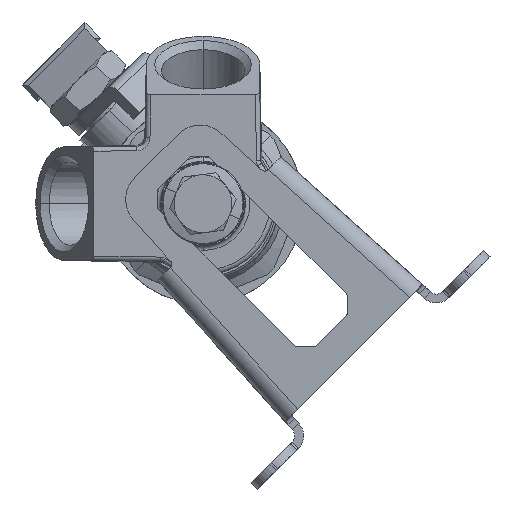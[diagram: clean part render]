
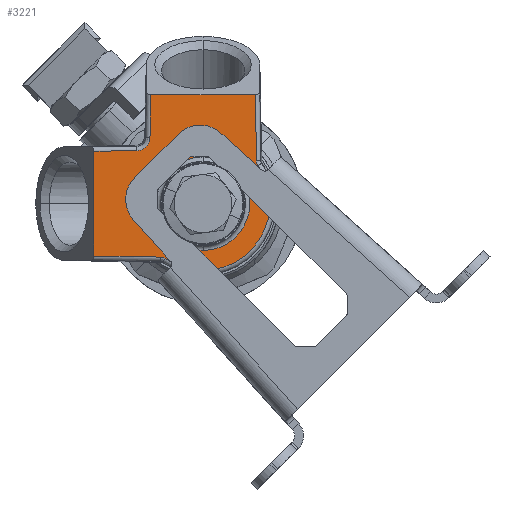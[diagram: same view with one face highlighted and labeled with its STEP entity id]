
A CAD part, left-side view. The second image highlights one B-rep face of the part: STEP entity #3221.
In plain terms, the highlighted planar face has unit normal (-1, 0, 0).
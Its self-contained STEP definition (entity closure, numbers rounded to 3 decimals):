
#1062 = EDGE_CURVE ( 'NONE', #22893, #8494, #9942, .T. ) ;
#1077 = DIRECTION ( 'NONE',  ( 0., 1., -0.014 ) ) ;
#1086 = LINE ( 'NONE', #3551, #15576 ) ;
#1235 = ORIENTED_EDGE ( 'NONE', *, *, #19367, .T. ) ;
#1318 = ORIENTED_EDGE ( 'NONE', *, *, #6472, .T. ) ;
#1334 = ORIENTED_EDGE ( 'NONE', *, *, #5472, .T. ) ;
#1435 = CARTESIAN_POINT ( 'NONE',  ( -69.565, 7.781, -30.522 ) ) ;
#1476 = VERTEX_POINT ( 'NONE', #14785 ) ;
#1815 = AXIS2_PLACEMENT_3D ( 'NONE', #6560, #25379, #8698 ) ;
#1956 = CARTESIAN_POINT ( 'NONE',  ( -69.565, -13.838, -9.293 ) ) ;
#2068 = ORIENTED_EDGE ( 'NONE', *, *, #20299, .T. ) ;
#2085 = VERTEX_POINT ( 'NONE', #3145 ) ;
#2484 = CARTESIAN_POINT ( 'NONE',  ( -69.565, 22.67, -30.304 ) ) ;
#2786 = VECTOR ( 'NONE', #10852, 1000. ) ;
#2851 = CARTESIAN_POINT ( 'NONE',  ( -69.565, 23.81, -6.772 ) ) ;
#3145 = CARTESIAN_POINT ( 'NONE',  ( -69.565, -1.843, -8.028 ) ) ;
#3221 = ADVANCED_FACE ( 'NONE', ( #6398, #25426 ), #20886, .F. ) ;
#3481 = VERTEX_POINT ( 'NONE', #26273 ) ;
#3551 = CARTESIAN_POINT ( 'NONE',  ( -69.565, 22.67, -18.528 ) ) ;
#3932 = VERTEX_POINT ( 'NONE', #6123 ) ;
#3984 = ORIENTED_EDGE ( 'NONE', *, *, #1062, .F. ) ;
#4189 = ORIENTED_EDGE ( 'NONE', *, *, #7911, .T. ) ;
#4580 = CARTESIAN_POINT ( 'NONE',  ( -69.565, -13.832, -8.897 ) ) ;
#4941 = DIRECTION ( 'NONE',  ( 1., 0., 0. ) ) ;
#5019 = VERTEX_POINT ( 'NONE', #23540 ) ;
#5244 = EDGE_CURVE ( 'NONE', #5019, #11939, #19529, .T. ) ;
#5472 = EDGE_CURVE ( 'NONE', #22893, #12029, #6888, .T. ) ;
#6123 = CARTESIAN_POINT ( 'NONE',  ( -69.565, -14.186, -10.005 ) ) ;
#6215 = LINE ( 'NONE', #23622, #8141 ) ;
#6398 = FACE_BOUND ( 'NONE', #19827, .T. ) ;
#6414 = VERTEX_POINT ( 'NONE', #25225 ) ;
#6472 = EDGE_CURVE ( 'NONE', #2085, #3481, #19712, .T. ) ;
#6560 = CARTESIAN_POINT ( 'NONE',  ( -69.565, -1.843, -18.528 ) ) ;
#6629 = DIRECTION ( 'NONE',  ( 1., 0., 0. ) ) ;
#6716 = DIRECTION ( 'NONE',  ( -1., 0., 0. ) ) ;
#6888 = CIRCLE ( 'NONE', #1815, 15. ) ;
#6988 = DIRECTION ( 'NONE',  ( 0., 0., -1. ) ) ;
#7043 =( BOUNDED_CURVE ( )  B_SPLINE_CURVE ( 3, ( #22241, #11726, #22145, #22052 ),
 .UNSPECIFIED., .F., .T. ) 
 B_SPLINE_CURVE_WITH_KNOTS ( ( 4, 4 ),
 ( 2.353, 3.895 ),
 .UNSPECIFIED. ) 
 CURVE ( )  GEOMETRIC_REPRESENTATION_ITEM ( )  RATIONAL_B_SPLINE_CURVE ( ( 1., 0.812, 0.812, 1. ) ) 
 REPRESENTATION_ITEM ( '' )  );
#7189 = CARTESIAN_POINT ( 'NONE',  ( -69.565, 7., -30.651 ) ) ;
#7596 = ORIENTED_EDGE ( 'NONE', *, *, #5244, .T. ) ;
#7762 = CARTESIAN_POINT ( 'NONE',  ( -69.565, 6.674, -30.876 ) ) ;
#7911 = EDGE_CURVE ( 'NONE', #12029, #3932, #15156, .T. ) ;
#8141 = VECTOR ( 'NONE', #21561, 1000. ) ;
#8494 = VERTEX_POINT ( 'NONE', #1435 ) ;
#8698 = DIRECTION ( 'NONE',  ( 0., 0., -1. ) ) ;
#8750 = CARTESIAN_POINT ( 'NONE',  ( -69.565, 22.67, -6.755 ) ) ;
#9299 = AXIS2_PLACEMENT_3D ( 'NONE', #13324, #4941, #19666 ) ;
#9746 = ORIENTED_EDGE ( 'NONE', *, *, #22737, .T. ) ;
#9942 = B_SPLINE_CURVE_WITH_KNOTS ( 'NONE', 3,
 ( #19158, #7189, #21247, #13018 ),
 .UNSPECIFIED., .F., .F.,
 ( 4, 4 ),
 ( 0., 0.001 ),
 .UNSPECIFIED. ) ;
#10116 = VECTOR ( 'NONE', #19215, 1000. ) ;
#10162 = CARTESIAN_POINT ( 'NONE',  ( -69.565, -13.961, -9.679 ) ) ;
#10852 = DIRECTION ( 'NONE',  ( 0., 1., 0. ) ) ;
#11057 = ORIENTED_EDGE ( 'NONE', *, *, #11130, .T. ) ;
#11130 = EDGE_CURVE ( 'NONE', #3481, #2085, #17794, .T. ) ;
#11355 = DIRECTION ( 'NONE',  ( 0., 0., -1. ) ) ;
#11726 = CARTESIAN_POINT ( 'NONE',  ( -69.565, 10.099, -5.377 ) ) ;
#11730 = VECTOR ( 'NONE', #19149, 1000. ) ;
#11939 = VERTEX_POINT ( 'NONE', #8750 ) ;
#12029 = VERTEX_POINT ( 'NONE', #15022 ) ;
#13018 = CARTESIAN_POINT ( 'NONE',  ( -69.565, 7.781, -30.522 ) ) ;
#13115 = ORIENTED_EDGE ( 'NONE', *, *, #17618, .T. ) ;
#13258 = DIRECTION ( 'NONE',  ( 0., 0., -1. ) ) ;
#13324 = CARTESIAN_POINT ( 'NONE',  ( -69.565, -1.843, -18.528 ) ) ;
#13900 = ORIENTED_EDGE ( 'NONE', *, *, #19829, .T. ) ;
#14692 = AXIS2_PLACEMENT_3D ( 'NONE', #15256, #6716, #23391 ) ;
#14785 = CARTESIAN_POINT ( 'NONE',  ( -69.565, 9.933, 5.985 ) ) ;
#15022 = CARTESIAN_POINT ( 'NONE',  ( -69.565, -1.843, -33.528 ) ) ;
#15055 = VERTEX_POINT ( 'NONE', #2484 ) ;
#15156 = CIRCLE ( 'NONE', #14692, 15. ) ;
#15256 = CARTESIAN_POINT ( 'NONE',  ( -69.565, -1.843, -18.528 ) ) ;
#15576 = VECTOR ( 'NONE', #11355, 1000. ) ;
#15606 = LINE ( 'NONE', #17029, #10116 ) ;
#16256 = VECTOR ( 'NONE', #1077, 1000. ) ;
#16662 = LINE ( 'NONE', #16833, #2786 ) ;
#16833 = CARTESIAN_POINT ( 'NONE',  ( -69.565, -1.843, 5.985 ) ) ;
#17029 = CARTESIAN_POINT ( 'NONE',  ( -69.565, 7.484, -30.526 ) ) ;
#17066 = CARTESIAN_POINT ( 'NONE',  ( -69.565, -13.6, 7.125 ) ) ;
#17231 = LINE ( 'NONE', #17066, #11730 ) ;
#17234 = EDGE_CURVE ( 'NONE', #26208, #3932, #18709, .T. ) ;
#17618 = EDGE_CURVE ( 'NONE', #1476, #6414, #6215, .T. ) ;
#17794 = CIRCLE ( 'NONE', #22437, 10.5 ) ;
#18709 = B_SPLINE_CURVE_WITH_KNOTS ( 'NONE', 3,
 ( #24432, #1956, #10162, #24517 ),
 .UNSPECIFIED., .F., .F.,
 ( 4, 4 ),
 ( 0., 0.001 ),
 .UNSPECIFIED. ) ;
#19076 = ORIENTED_EDGE ( 'NONE', *, *, #19978, .T. ) ;
#19149 = DIRECTION ( 'NONE',  ( 0., 0.014, 1. ) ) ;
#19158 = CARTESIAN_POINT ( 'NONE',  ( -69.565, 6.674, -30.876 ) ) ;
#19215 = DIRECTION ( 'NONE',  ( 0., -1., -0.015 ) ) ;
#19337 = CARTESIAN_POINT ( 'NONE',  ( -69.565, -1.843, -18.528 ) ) ;
#19367 = EDGE_CURVE ( 'NONE', #6414, #5019, #7043, .T. ) ;
#19511 = VERTEX_POINT ( 'NONE', #26718 ) ;
#19529 = LINE ( 'NONE', #2851, #16256 ) ;
#19532 = DIRECTION ( 'NONE',  ( 1., 0., 0. ) ) ;
#19666 = DIRECTION ( 'NONE',  ( 0., 0., -1. ) ) ;
#19712 = CIRCLE ( 'NONE', #9299, 10.5 ) ;
#19827 = EDGE_LOOP ( 'NONE', ( #11057, #1318 ) ) ;
#19829 = EDGE_CURVE ( 'NONE', #26208, #19511, #17231, .T. ) ;
#19978 = EDGE_CURVE ( 'NONE', #11939, #15055, #1086, .T. ) ;
#20299 = EDGE_CURVE ( 'NONE', #15055, #8494, #15606, .T. ) ;
#20387 = ORIENTED_EDGE ( 'NONE', *, *, #17234, .F. ) ;
#20886 = PLANE ( 'NONE',  #25391 ) ;
#21247 = CARTESIAN_POINT ( 'NONE',  ( -69.565, 7.385, -30.528 ) ) ;
#21561 = DIRECTION ( 'NONE',  ( 0., 0.015, -1. ) ) ;
#22052 = CARTESIAN_POINT ( 'NONE',  ( -69.565, 13.03, -6.616 ) ) ;
#22145 = CARTESIAN_POINT ( 'NONE',  ( -69.565, 11.313, -6.591 ) ) ;
#22241 = CARTESIAN_POINT ( 'NONE',  ( -69.565, 10.074, -3.66 ) ) ;
#22437 = AXIS2_PLACEMENT_3D ( 'NONE', #23743, #19532, #13258 ) ;
#22737 = EDGE_CURVE ( 'NONE', #19511, #1476, #16662, .T. ) ;
#22893 = VERTEX_POINT ( 'NONE', #7762 ) ;
#23391 = DIRECTION ( 'NONE',  ( 0., 0., -1. ) ) ;
#23540 = CARTESIAN_POINT ( 'NONE',  ( -69.565, 13.03, -6.616 ) ) ;
#23622 = CARTESIAN_POINT ( 'NONE',  ( -69.565, 10.074, -3.668 ) ) ;
#23743 = CARTESIAN_POINT ( 'NONE',  ( -69.565, -1.843, -18.528 ) ) ;
#24432 = CARTESIAN_POINT ( 'NONE',  ( -69.565, -13.832, -8.897 ) ) ;
#24517 = CARTESIAN_POINT ( 'NONE',  ( -69.565, -14.186, -10.005 ) ) ;
#25225 = CARTESIAN_POINT ( 'NONE',  ( -69.565, 10.074, -3.66 ) ) ;
#25279 = EDGE_LOOP ( 'NONE', ( #13900, #9746, #13115, #1235, #7596, #19076, #2068, #3984, #1334, #4189, #20387 ) ) ;
#25379 = DIRECTION ( 'NONE',  ( -1., 0., 0. ) ) ;
#25391 = AXIS2_PLACEMENT_3D ( 'NONE', #19337, #6629, #6988 ) ;
#25426 = FACE_OUTER_BOUND ( 'NONE', #25279, .T. ) ;
#26208 = VERTEX_POINT ( 'NONE', #4580 ) ;
#26273 = CARTESIAN_POINT ( 'NONE',  ( -69.565, -1.843, -29.028 ) ) ;
#26718 = CARTESIAN_POINT ( 'NONE',  ( -69.565, -13.616, 5.985 ) ) ;
